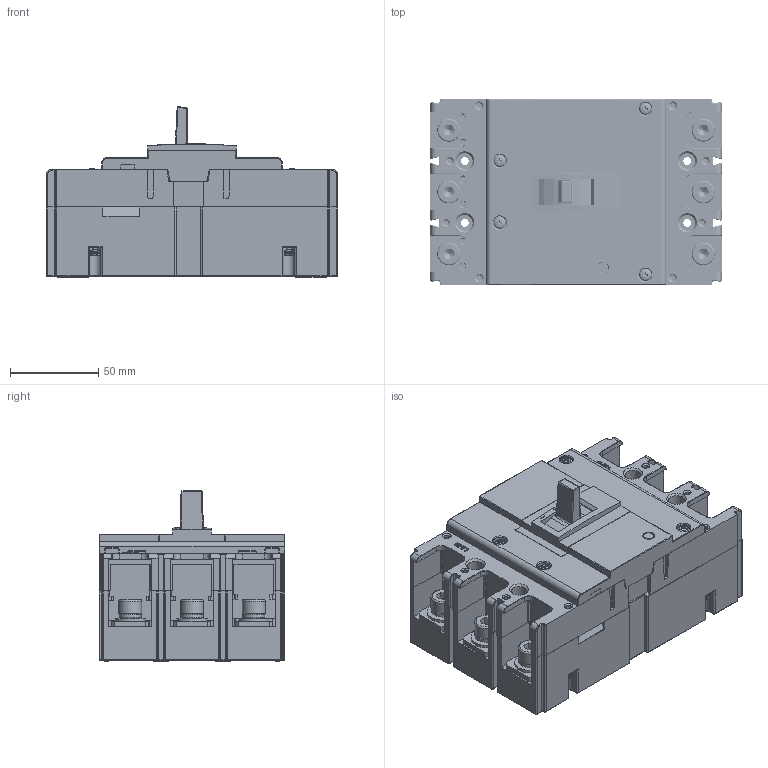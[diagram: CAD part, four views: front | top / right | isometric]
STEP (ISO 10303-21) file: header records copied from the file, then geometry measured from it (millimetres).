
FILE_DESCRIPTION(/* description */ (''),/* implementation_level */ '2;1');
FILE_NAME(/* name */ 'YCM7-250S.stp',/* time_stamp */ '2022-07-30T13:22:33+08:00',/* author */ (''),/* organization */ (''),/* preprocessor_version */ 'ST-DEVELOPER v16',/* originating_system */ 'SIEMENS PLM Software NX 10.0',/* authorisation */ '');
FILE_SCHEMA (('CONFIG_CONTROL_DESIGN'));
Products named in the file (1): _model2
Bounding box: 165 x 105 x 96.36 mm (x, y, z)
Volume: 391500.1 mm3; surface area: 289823.9 mm2
Topology: 44 solids, 50 shells, 4107 faces, 11318 edges, 7374 vertices
Faces by surface type: plane 2742, cylinder 978, torus 131, cone 115, bspline 69, extrusion 45, sphere 27
Full cylindrical faces by diameter (mm): 1.8 x2, 2.5 x6, 2.6 x5, 2.65 x4, 2.7 x6, 2.874 x4, 3 x5, 3.2 x8, 3.4 x14, 3.545 x4, 3.6 x1, 4 x53, 4.2 x4, 4.25 x3, 4.3 x2, 4.5 x31, 5 x3, 5.4 x10, 5.7 x3, 5.8 x1, 6 x14, 6.1 x1, 6.3 x10, 6.645 x6, 6.8 x6, 6.82 x4, 6.9 x2, 7.05 x1, 7.2 x2, 7.3 x3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
Entity records: 147393 total; most frequent: CARTESIAN_POINT 45337, ORIENTED_EDGE 21322, DIRECTION 20356, EDGE_CURVE 10661, VECTOR 7626, LINE 7581, VERTEX_POINT 7164, AXIS2_PLACEMENT_3D 6365
